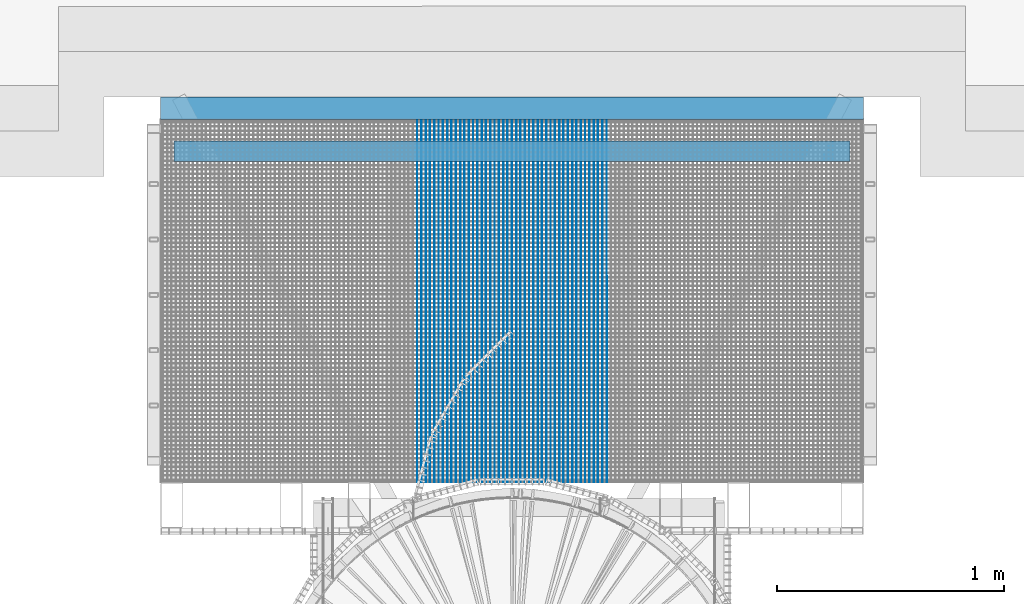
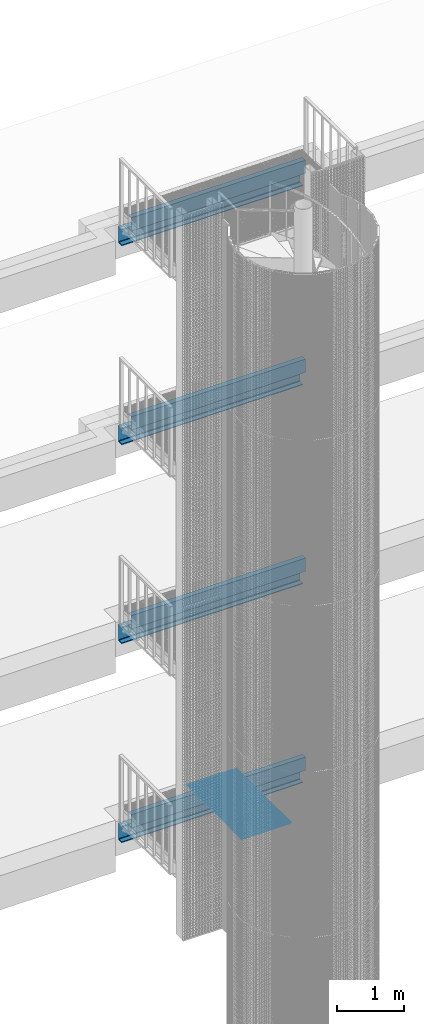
# One storey, part 84 of 1183: 53 beams, 9 elements without a shape of their own.
"""IFC2X3 building model written with IfcOpenShell, lengths in millimetres."""

from ifc_helpers import new_model, si_unit, frame, origin_with_axes, origin_2d_with_axis, place, context, subcontext, project, spatial, rectangle, u_section, extrude, material, type_object, element, aggregate, save


model = new_model("IFC2X3")

# Units and contexts
model_context = context("Model", 3, precision=1e-05, world=origin_with_axes())
body_context = subcontext(model_context, "Body", "Model", "MODEL_VIEW")
ifc_project = project(units=[si_unit("LENGTHUNIT", "METRE", prefix="MILLI"), si_unit("AREAUNIT", "SQUARE_METRE"), si_unit("VOLUMEUNIT", "CUBIC_METRE"), si_unit("MASSUNIT", "GRAM", prefix="KILO"), si_unit("TIMEUNIT", "SECOND"), si_unit("PLANEANGLEUNIT", "RADIAN"), si_unit("SOLIDANGLEUNIT", "STERADIAN"), si_unit("THERMODYNAMICTEMPERATUREUNIT", "DEGREE_CELSIUS"), si_unit("LUMINOUSINTENSITYUNIT", "LUMEN")], contexts=[model_context])

# Site, building, storey
site_placement = place(None, origin_with_axes())
site = spatial("IfcSite", under=ifc_project, at=site_placement, Name="Undefined", CompositionType="ELEMENT")
building_placement = place(site_placement, origin_with_axes())
building = spatial("IfcBuilding", under=site, at=building_placement, Name="Undefined", CompositionType="ELEMENT")
storey_placement = place(building_placement, origin_with_axes())
storey = spatial("IfcBuildingStorey", under=building, at=storey_placement, Name="Undefined", CompositionType="ELEMENT", Elevation=0.0)

# Assembly, beams
assembly_1_placement = place(storey_placement, origin_with_axes())
assembly_1 = element("IfcElementAssembly", 1, at=assembly_1_placement, inside=storey, Name="BORDURE", AssemblyPlace="NOTDEFINED", PredefinedType="NOTDEFINED")
ifc_material_1 = material(Name="STEEL/S235JR")
beam_type_1 = type_object("IfcBeamType", Name="PL2*10", PredefinedType="NOTDEFINED")
beam_1_placement = place(assembly_1_placement, frame((-417.924575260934, 1102.000261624, 6485.0), z_axis=(0.0, 0.0, 1.0), x_axis=(-4.50599999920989e-06, 0.999999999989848, 0.0)))
beam_1 = element("IfcBeam", 2, at=beam_1_placement, type_object=beam_type_1, material=ifc_material_1, Name="ENTRETOISE", context=body_context, shape_type="SweptSolid", body=[
    extrude(rectangle(XDim=2.0, YDim=10.0, at=origin_2d_with_axis()), frame((1596.0000000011, -1.35186458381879e-18, -7.27595761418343e-12), z_axis=(-1.0, 0.0, 0.0), x_axis=(0.0, -1.0, 0.0)), (0.0, 0.0, 1.0), 1596.0),
])
beam_2_placement = place(assembly_1_placement, frame((-398.924575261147, 1102.00035514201, 6485.0), z_axis=(0.0, 0.0, 1.0), x_axis=(-4.50599999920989e-06, 0.999999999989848, 0.0)))
beam_2 = element("IfcBeam", 3, at=beam_2_placement, type_object=beam_type_1, material=ifc_material_1, Name="ENTRETOISE", context=body_context, shape_type="SweptSolid", body=[
    extrude(rectangle(XDim=2.0, YDim=10.0, at=origin_2d_with_axis()), frame((1596.0000000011, -1.35186458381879e-18, -7.27595761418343e-12), z_axis=(-1.0, 0.0, 0.0), x_axis=(0.0, -1.0, 0.0)), (0.0, 0.0, 1.0), 1596.0),
])
beam_3_placement = place(assembly_1_placement, frame((-379.924575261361, 1102.00044866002, 6485.0), z_axis=(0.0, 0.0, 1.0), x_axis=(-4.50599999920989e-06, 0.999999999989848, 0.0)))
beam_3 = element("IfcBeam", 4, at=beam_3_placement, type_object=beam_type_1, material=ifc_material_1, Name="ENTRETOISE", context=body_context, shape_type="SweptSolid", body=[
    extrude(rectangle(XDim=2.0, YDim=10.0, at=origin_2d_with_axis()), frame((1596.0000000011, -1.35186458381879e-18, -7.27595761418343e-12), z_axis=(-1.0, 0.0, 0.0), x_axis=(0.0, -1.0, 0.0)), (0.0, 0.0, 1.0), 1596.0),
])
beam_4_placement = place(assembly_1_placement, frame((-360.924575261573, 1102.00054217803, 6485.0), z_axis=(0.0, 0.0, 1.0), x_axis=(-4.50599999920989e-06, 0.999999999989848, 0.0)))
beam_4 = element("IfcBeam", 5, at=beam_4_placement, type_object=beam_type_1, material=ifc_material_1, Name="ENTRETOISE", context=body_context, shape_type="SweptSolid", body=[
    extrude(rectangle(XDim=2.0, YDim=10.0, at=origin_2d_with_axis()), frame((1596.0000000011, -1.35186458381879e-18, -7.27595761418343e-12), z_axis=(-1.0, 0.0, 0.0), x_axis=(0.0, -1.0, 0.0)), (0.0, 0.0, 1.0), 1596.0),
])
beam_5_placement = place(assembly_1_placement, frame((-341.924575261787, 1102.00063569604, 6485.0), z_axis=(0.0, 0.0, 1.0), x_axis=(-4.50599999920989e-06, 0.999999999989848, 0.0)))
beam_5 = element("IfcBeam", 6, at=beam_5_placement, type_object=beam_type_1, material=ifc_material_1, Name="ENTRETOISE", context=body_context, shape_type="SweptSolid", body=[
    extrude(rectangle(XDim=2.0, YDim=10.0, at=origin_2d_with_axis()), frame((1596.0000000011, -1.35186458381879e-18, -7.27595761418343e-12), z_axis=(-1.0, 0.0, 0.0), x_axis=(0.0, -1.0, 0.0)), (0.0, 0.0, 1.0), 1596.0),
])
beam_6_placement = place(assembly_1_placement, frame((-322.924575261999, 1102.00072921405, 6485.0), z_axis=(0.0, 0.0, 1.0), x_axis=(-4.50599999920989e-06, 0.999999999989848, 0.0)))
beam_6 = element("IfcBeam", 7, at=beam_6_placement, type_object=beam_type_1, material=ifc_material_1, Name="ENTRETOISE", context=body_context, shape_type="SweptSolid", body=[
    extrude(rectangle(XDim=2.0, YDim=10.0, at=origin_2d_with_axis()), frame((1596.0000000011, -1.35186458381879e-18, -7.27595761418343e-12), z_axis=(-1.0, 0.0, 0.0), x_axis=(0.0, -1.0, 0.0)), (0.0, 0.0, 1.0), 1596.0),
])
beam_7_placement = place(assembly_1_placement, frame((-303.924575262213, 1102.00082273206, 6485.0), z_axis=(0.0, 0.0, 1.0), x_axis=(-4.50599999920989e-06, 0.999999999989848, 0.0)))
beam_7 = element("IfcBeam", 8, at=beam_7_placement, type_object=beam_type_1, material=ifc_material_1, Name="ENTRETOISE", context=body_context, shape_type="SweptSolid", body=[
    extrude(rectangle(XDim=2.0, YDim=10.0, at=origin_2d_with_axis()), frame((1596.0000000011, -1.35186458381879e-18, -7.27595761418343e-12), z_axis=(-1.0, 0.0, 0.0), x_axis=(0.0, -1.0, 0.0)), (0.0, 0.0, 1.0), 1596.0),
])
beam_8_placement = place(assembly_1_placement, frame((-284.924575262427, 1102.00091625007, 6485.0), z_axis=(0.0, 0.0, 1.0), x_axis=(-4.50599999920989e-06, 0.999999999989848, 0.0)))
beam_8 = element("IfcBeam", 9, at=beam_8_placement, type_object=beam_type_1, material=ifc_material_1, Name="ENTRETOISE", context=body_context, shape_type="SweptSolid", body=[
    extrude(rectangle(XDim=2.0, YDim=10.0, at=origin_2d_with_axis()), frame((1596.0000000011, -1.35186458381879e-18, -7.27595761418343e-12), z_axis=(-1.0, 0.0, 0.0), x_axis=(0.0, -1.0, 0.0)), (0.0, 0.0, 1.0), 1596.0),
])
beam_9_placement = place(assembly_1_placement, frame((-265.924575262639, 1102.00100976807, 6485.0), z_axis=(0.0, 0.0, 1.0), x_axis=(-4.50599999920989e-06, 0.999999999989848, 0.0)))
beam_9 = element("IfcBeam", 10, at=beam_9_placement, type_object=beam_type_1, material=ifc_material_1, Name="ENTRETOISE", context=body_context, shape_type="SweptSolid", body=[
    extrude(rectangle(XDim=2.0, YDim=10.0, at=origin_2d_with_axis()), frame((1596.0000000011, -1.35186458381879e-18, -7.27595761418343e-12), z_axis=(-1.0, 0.0, 0.0), x_axis=(0.0, -1.0, 0.0)), (0.0, 0.0, 1.0), 1596.0),
])
beam_10_placement = place(assembly_1_placement, frame((-246.924575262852, 1102.00110328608, 6485.0), z_axis=(0.0, 0.0, 1.0), x_axis=(-4.50599999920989e-06, 0.999999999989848, 0.0)))
beam_10 = element("IfcBeam", 11, at=beam_10_placement, type_object=beam_type_1, material=ifc_material_1, Name="ENTRETOISE", context=body_context, shape_type="SweptSolid", body=[
    extrude(rectangle(XDim=2.0, YDim=10.0, at=origin_2d_with_axis()), frame((1596.0000000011, -1.35186458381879e-18, -7.27595761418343e-12), z_axis=(-1.0, 0.0, 0.0), x_axis=(0.0, -1.0, 0.0)), (0.0, 0.0, 1.0), 1596.0),
])
beam_11_placement = place(assembly_1_placement, frame((-227.924575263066, 1102.00119680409, 6485.0), z_axis=(0.0, 0.0, 1.0), x_axis=(-4.50599999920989e-06, 0.999999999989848, 0.0)))
beam_11 = element("IfcBeam", 12, at=beam_11_placement, type_object=beam_type_1, material=ifc_material_1, Name="ENTRETOISE", context=body_context, shape_type="SweptSolid", body=[
    extrude(rectangle(XDim=2.0, YDim=10.0, at=origin_2d_with_axis()), frame((1596.0000000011, -1.35186458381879e-18, -7.27595761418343e-12), z_axis=(-1.0, 0.0, 0.0), x_axis=(0.0, -1.0, 0.0)), (0.0, 0.0, 1.0), 1596.0),
])
beam_12_placement = place(assembly_1_placement, frame((-208.92457526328, 1102.0012903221, 6485.0), z_axis=(0.0, 0.0, 1.0), x_axis=(-4.50599999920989e-06, 0.999999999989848, 0.0)))
beam_12 = element("IfcBeam", 13, at=beam_12_placement, type_object=beam_type_1, material=ifc_material_1, Name="ENTRETOISE", context=body_context, shape_type="SweptSolid", body=[
    extrude(rectangle(XDim=2.0, YDim=10.0, at=origin_2d_with_axis()), frame((1596.0000000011, -1.35186458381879e-18, -7.27595761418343e-12), z_axis=(-1.0, 0.0, 0.0), x_axis=(0.0, -1.0, 0.0)), (0.0, 0.0, 1.0), 1596.0),
])
beam_13_placement = place(assembly_1_placement, frame((-189.924575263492, 1102.00138384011, 6485.0), z_axis=(0.0, 0.0, 1.0), x_axis=(-4.50599999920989e-06, 0.999999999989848, 0.0)))
beam_13 = element("IfcBeam", 14, at=beam_13_placement, type_object=beam_type_1, material=ifc_material_1, Name="ENTRETOISE", context=body_context, shape_type="SweptSolid", body=[
    extrude(rectangle(XDim=2.0, YDim=10.0, at=origin_2d_with_axis()), frame((1596.0000000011, -1.35186458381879e-18, -7.27595761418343e-12), z_axis=(-1.0, 0.0, 0.0), x_axis=(0.0, -1.0, 0.0)), (0.0, 0.0, 1.0), 1596.0),
])
beam_14_placement = place(assembly_1_placement, frame((-170.924575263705, 1102.00147735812, 6485.0), z_axis=(0.0, 0.0, 1.0), x_axis=(-4.50599999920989e-06, 0.999999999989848, 0.0)))
beam_14 = element("IfcBeam", 15, at=beam_14_placement, type_object=beam_type_1, material=ifc_material_1, Name="ENTRETOISE", context=body_context, shape_type="SweptSolid", body=[
    extrude(rectangle(XDim=2.0, YDim=10.0, at=origin_2d_with_axis()), frame((1596.0000000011, -1.35186458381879e-18, -7.27595761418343e-12), z_axis=(-1.0, 0.0, 0.0), x_axis=(0.0, -1.0, 0.0)), (0.0, 0.0, 1.0), 1596.0),
])
beam_15_placement = place(assembly_1_placement, frame((-151.924575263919, 1102.00157087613, 6485.0), z_axis=(0.0, 0.0, 1.0), x_axis=(-4.50599999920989e-06, 0.999999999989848, 0.0)))
beam_15 = element("IfcBeam", 16, at=beam_15_placement, type_object=beam_type_1, material=ifc_material_1, Name="ENTRETOISE", context=body_context, shape_type="SweptSolid", body=[
    extrude(rectangle(XDim=2.0, YDim=10.0, at=origin_2d_with_axis()), frame((1596.0000000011, -1.35186458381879e-18, -7.27595761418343e-12), z_axis=(-1.0, 0.0, 0.0), x_axis=(0.0, -1.0, 0.0)), (0.0, 0.0, 1.0), 1596.0),
])
beam_16_placement = place(assembly_1_placement, frame((-132.924575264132, 1102.00166439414, 6485.0), z_axis=(0.0, 0.0, 1.0), x_axis=(-4.50599999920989e-06, 0.999999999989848, 0.0)))
beam_16 = element("IfcBeam", 17, at=beam_16_placement, type_object=beam_type_1, material=ifc_material_1, Name="ENTRETOISE", context=body_context, shape_type="SweptSolid", body=[
    extrude(rectangle(XDim=2.0, YDim=10.0, at=origin_2d_with_axis()), frame((1596.0000000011, -1.35186458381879e-18, -7.27595761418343e-12), z_axis=(-1.0, 0.0, 0.0), x_axis=(0.0, -1.0, 0.0)), (0.0, 0.0, 1.0), 1596.0),
])
beam_17_placement = place(assembly_1_placement, frame((-113.924575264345, 1102.00175791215, 6485.0), z_axis=(0.0, 0.0, 1.0), x_axis=(-4.50599999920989e-06, 0.999999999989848, 0.0)))
beam_17 = element("IfcBeam", 18, at=beam_17_placement, type_object=beam_type_1, material=ifc_material_1, Name="ENTRETOISE", context=body_context, shape_type="SweptSolid", body=[
    extrude(rectangle(XDim=2.0, YDim=10.0, at=origin_2d_with_axis()), frame((1596.0000000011, -1.35186458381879e-18, -7.27595761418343e-12), z_axis=(-1.0, 0.0, 0.0), x_axis=(0.0, -1.0, 0.0)), (0.0, 0.0, 1.0), 1596.0),
])
beam_18_placement = place(assembly_1_placement, frame((-94.9245752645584, 1102.00185143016, 6485.0), z_axis=(0.0, 0.0, 1.0), x_axis=(-4.50599999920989e-06, 0.999999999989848, 0.0)))
beam_18 = element("IfcBeam", 19, at=beam_18_placement, type_object=beam_type_1, material=ifc_material_1, Name="ENTRETOISE", context=body_context, shape_type="SweptSolid", body=[
    extrude(rectangle(XDim=2.0, YDim=10.0, at=origin_2d_with_axis()), frame((1596.0000000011, -1.35186458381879e-18, -7.27595761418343e-12), z_axis=(-1.0, 0.0, 0.0), x_axis=(0.0, -1.0, 0.0)), (0.0, 0.0, 1.0), 1596.0),
])
beam_19_placement = place(assembly_1_placement, frame((-75.9245752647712, 1102.00194494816, 6485.0), z_axis=(0.0, 0.0, 1.0), x_axis=(-4.50599999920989e-06, 0.999999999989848, 0.0)))
beam_19 = element("IfcBeam", 20, at=beam_19_placement, type_object=beam_type_1, material=ifc_material_1, Name="ENTRETOISE", context=body_context, shape_type="SweptSolid", body=[
    extrude(rectangle(XDim=2.0, YDim=10.0, at=origin_2d_with_axis()), frame((1596.0000000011, -1.35186458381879e-18, -7.27595761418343e-12), z_axis=(-1.0, 0.0, 0.0), x_axis=(0.0, -1.0, 0.0)), (0.0, 0.0, 1.0), 1596.0),
])
beam_20_placement = place(assembly_1_placement, frame((-56.9245752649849, 1102.00203846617, 6485.0), z_axis=(0.0, 0.0, 1.0), x_axis=(-4.50599999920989e-06, 0.999999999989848, 0.0)))
beam_20 = element("IfcBeam", 21, at=beam_20_placement, type_object=beam_type_1, material=ifc_material_1, Name="ENTRETOISE", context=body_context, shape_type="SweptSolid", body=[
    extrude(rectangle(XDim=2.0, YDim=10.0, at=origin_2d_with_axis()), frame((1596.0000000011, -1.35186458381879e-18, -7.27595761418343e-12), z_axis=(-1.0, 0.0, 0.0), x_axis=(0.0, -1.0, 0.0)), (0.0, 0.0, 1.0), 1596.0),
])
beam_21_placement = place(assembly_1_placement, frame((-37.9245752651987, 1102.00213198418, 6485.0), z_axis=(0.0, 0.0, 1.0), x_axis=(-4.50599999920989e-06, 0.999999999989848, 0.0)))
beam_21 = element("IfcBeam", 22, at=beam_21_placement, type_object=beam_type_1, material=ifc_material_1, Name="ENTRETOISE", context=body_context, shape_type="SweptSolid", body=[
    extrude(rectangle(XDim=2.0, YDim=10.0, at=origin_2d_with_axis()), frame((1596.0000000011, -1.35186458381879e-18, -7.27595761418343e-12), z_axis=(-1.0, 0.0, 0.0), x_axis=(0.0, -1.0, 0.0)), (0.0, 0.0, 1.0), 1596.0),
])
beam_22_placement = place(assembly_1_placement, frame((-18.9245752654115, 1102.00222550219, 6485.0), z_axis=(0.0, 0.0, 1.0), x_axis=(-4.50599999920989e-06, 0.999999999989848, 0.0)))
beam_22 = element("IfcBeam", 23, at=beam_22_placement, type_object=beam_type_1, material=ifc_material_1, Name="ENTRETOISE", context=body_context, shape_type="SweptSolid", body=[
    extrude(rectangle(XDim=2.0, YDim=10.0, at=origin_2d_with_axis()), frame((1596.0000000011, -1.35186458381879e-18, -7.27595761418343e-12), z_axis=(-1.0, 0.0, 0.0), x_axis=(0.0, -1.0, 0.0)), (0.0, 0.0, 1.0), 1596.0),
])
beam_23_placement = place(assembly_1_placement, frame((0.075424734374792, 1102.0023190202, 6485.0), z_axis=(0.0, 0.0, 1.0), x_axis=(-4.50599999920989e-06, 0.999999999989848, 0.0)))
beam_23 = element("IfcBeam", 24, at=beam_23_placement, type_object=beam_type_1, material=ifc_material_1, Name="ENTRETOISE", context=body_context, shape_type="SweptSolid", body=[
    extrude(rectangle(XDim=2.0, YDim=10.0, at=origin_2d_with_axis()), frame((1596.0000000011, -1.35186458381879e-18, -7.27595761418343e-12), z_axis=(-1.0, 0.0, 0.0), x_axis=(0.0, -1.0, 0.0)), (0.0, 0.0, 1.0), 1596.0),
])
beam_24_placement = place(assembly_1_placement, frame((19.075424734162, 1102.00241253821, 6485.0), z_axis=(0.0, 0.0, 1.0), x_axis=(-4.50599999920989e-06, 0.999999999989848, 0.0)))
beam_24 = element("IfcBeam", 25, at=beam_24_placement, type_object=beam_type_1, material=ifc_material_1, Name="ENTRETOISE", context=body_context, shape_type="SweptSolid", body=[
    extrude(rectangle(XDim=2.0, YDim=10.0, at=origin_2d_with_axis()), frame((1596.0000000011, -1.35186458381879e-18, -7.27595761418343e-12), z_axis=(-1.0, 0.0, 0.0), x_axis=(0.0, -1.0, 0.0)), (0.0, 0.0, 1.0), 1596.0),
])
beam_25_placement = place(assembly_1_placement, frame((38.0754247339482, 1102.00250605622, 6485.0), z_axis=(0.0, 0.0, 1.0), x_axis=(-4.50599999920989e-06, 0.999999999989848, 0.0)))
beam_25 = element("IfcBeam", 26, at=beam_25_placement, type_object=beam_type_1, material=ifc_material_1, Name="ENTRETOISE", context=body_context, shape_type="SweptSolid", body=[
    extrude(rectangle(XDim=2.0, YDim=10.0, at=origin_2d_with_axis()), frame((1596.0000000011, -1.35186458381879e-18, -7.27595761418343e-12), z_axis=(-1.0, 0.0, 0.0), x_axis=(0.0, -1.0, 0.0)), (0.0, 0.0, 1.0), 1596.0),
])
beam_26_placement = place(assembly_1_placement, frame((57.0754247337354, 1102.00259957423, 6485.0), z_axis=(0.0, 0.0, 1.0), x_axis=(-4.50599999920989e-06, 0.999999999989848, 0.0)))
beam_26 = element("IfcBeam", 27, at=beam_26_placement, type_object=beam_type_1, material=ifc_material_1, Name="ENTRETOISE", context=body_context, shape_type="SweptSolid", body=[
    extrude(rectangle(XDim=2.0, YDim=10.0, at=origin_2d_with_axis()), frame((1596.0000000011, -1.35186458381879e-18, -7.27595761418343e-12), z_axis=(-1.0, 0.0, 0.0), x_axis=(0.0, -1.0, 0.0)), (0.0, 0.0, 1.0), 1596.0),
])
beam_27_placement = place(assembly_1_placement, frame((76.0754247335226, 1102.00269309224, 6485.0), z_axis=(0.0, 0.0, 1.0), x_axis=(-4.50599999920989e-06, 0.999999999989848, 0.0)))
beam_27 = element("IfcBeam", 28, at=beam_27_placement, type_object=beam_type_1, material=ifc_material_1, Name="ENTRETOISE", context=body_context, shape_type="SweptSolid", body=[
    extrude(rectangle(XDim=2.0, YDim=10.0, at=origin_2d_with_axis()), frame((1596.0000000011, -1.35186458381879e-18, -7.27595761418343e-12), z_axis=(-1.0, 0.0, 0.0), x_axis=(0.0, -1.0, 0.0)), (0.0, 0.0, 1.0), 1596.0),
])
beam_28_placement = place(assembly_1_placement, frame((95.0754247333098, 1102.00278661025, 6485.0), z_axis=(0.0, 0.0, 1.0), x_axis=(-4.50599999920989e-06, 0.999999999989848, 0.0)))
beam_28 = element("IfcBeam", 29, at=beam_28_placement, type_object=beam_type_1, material=ifc_material_1, Name="ENTRETOISE", context=body_context, shape_type="SweptSolid", body=[
    extrude(rectangle(XDim=2.0, YDim=10.0, at=origin_2d_with_axis()), frame((1596.0000000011, -1.35186458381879e-18, -7.27595761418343e-12), z_axis=(-1.0, 0.0, 0.0), x_axis=(0.0, -1.0, 0.0)), (0.0, 0.0, 1.0), 1596.0),
])
beam_29_placement = place(assembly_1_placement, frame((114.075424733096, 1102.00288012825, 6485.0), z_axis=(0.0, 0.0, 1.0), x_axis=(-4.50599999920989e-06, 0.999999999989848, 0.0)))
beam_29 = element("IfcBeam", 30, at=beam_29_placement, type_object=beam_type_1, material=ifc_material_1, Name="ENTRETOISE", context=body_context, shape_type="SweptSolid", body=[
    extrude(rectangle(XDim=2.0, YDim=10.0, at=origin_2d_with_axis()), frame((1596.0000000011, -1.35186458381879e-18, -7.27595761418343e-12), z_axis=(-1.0, 0.0, 0.0), x_axis=(0.0, -1.0, 0.0)), (0.0, 0.0, 1.0), 1596.0),
])
beam_30_placement = place(assembly_1_placement, frame((133.075424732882, 1102.00297364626, 6485.0), z_axis=(0.0, 0.0, 1.0), x_axis=(-4.50599999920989e-06, 0.999999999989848, 0.0)))
beam_30 = element("IfcBeam", 31, at=beam_30_placement, type_object=beam_type_1, material=ifc_material_1, Name="ENTRETOISE", context=body_context, shape_type="SweptSolid", body=[
    extrude(rectangle(XDim=2.0, YDim=10.0, at=origin_2d_with_axis()), frame((1596.0000000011, -1.35186458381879e-18, -7.27595761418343e-12), z_axis=(-1.0, 0.0, 0.0), x_axis=(0.0, -1.0, 0.0)), (0.0, 0.0, 1.0), 1596.0),
])
beam_31_placement = place(assembly_1_placement, frame((152.075424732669, 1102.00306716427, 6485.0), z_axis=(0.0, 0.0, 1.0), x_axis=(-4.50599999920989e-06, 0.999999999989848, 0.0)))
beam_31 = element("IfcBeam", 32, at=beam_31_placement, type_object=beam_type_1, material=ifc_material_1, Name="ENTRETOISE", context=body_context, shape_type="SweptSolid", body=[
    extrude(rectangle(XDim=2.0, YDim=10.0, at=origin_2d_with_axis()), frame((1596.0000000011, -1.35186458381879e-18, -7.27595761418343e-12), z_axis=(-1.0, 0.0, 0.0), x_axis=(0.0, -1.0, 0.0)), (0.0, 0.0, 1.0), 1596.0),
])
beam_32_placement = place(assembly_1_placement, frame((171.075424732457, 1102.00316068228, 6485.0), z_axis=(0.0, 0.0, 1.0), x_axis=(-4.50599999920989e-06, 0.999999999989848, 0.0)))
beam_32 = element("IfcBeam", 33, at=beam_32_placement, type_object=beam_type_1, material=ifc_material_1, Name="ENTRETOISE", context=body_context, shape_type="SweptSolid", body=[
    extrude(rectangle(XDim=2.0, YDim=10.0, at=origin_2d_with_axis()), frame((1596.0000000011, -1.35186458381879e-18, -7.27595761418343e-12), z_axis=(-1.0, 0.0, 0.0), x_axis=(0.0, -1.0, 0.0)), (0.0, 0.0, 1.0), 1596.0),
])
beam_33_placement = place(assembly_1_placement, frame((190.075424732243, 1102.00325420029, 6485.0), z_axis=(0.0, 0.0, 1.0), x_axis=(-4.50599999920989e-06, 0.999999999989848, 0.0)))
beam_33 = element("IfcBeam", 34, at=beam_33_placement, type_object=beam_type_1, material=ifc_material_1, Name="ENTRETOISE", context=body_context, shape_type="SweptSolid", body=[
    extrude(rectangle(XDim=2.0, YDim=10.0, at=origin_2d_with_axis()), frame((1596.0000000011, -1.35186458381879e-18, -7.27595761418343e-12), z_axis=(-1.0, 0.0, 0.0), x_axis=(0.0, -1.0, 0.0)), (0.0, 0.0, 1.0), 1596.0),
])
beam_34_placement = place(assembly_1_placement, frame((209.075424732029, 1102.0033477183, 6485.0), z_axis=(0.0, 0.0, 1.0), x_axis=(-4.50599999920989e-06, 0.999999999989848, 0.0)))
beam_34 = element("IfcBeam", 35, at=beam_34_placement, type_object=beam_type_1, material=ifc_material_1, Name="ENTRETOISE", context=body_context, shape_type="SweptSolid", body=[
    extrude(rectangle(XDim=2.0, YDim=10.0, at=origin_2d_with_axis()), frame((1596.0000000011, -1.35186458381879e-18, -7.27595761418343e-12), z_axis=(-1.0, 0.0, 0.0), x_axis=(0.0, -1.0, 0.0)), (0.0, 0.0, 1.0), 1596.0),
])
beam_35_placement = place(assembly_1_placement, frame((228.075424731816, 1102.00344123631, 6485.0), z_axis=(0.0, 0.0, 1.0), x_axis=(-4.50599999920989e-06, 0.999999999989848, 0.0)))
beam_35 = element("IfcBeam", 36, at=beam_35_placement, type_object=beam_type_1, material=ifc_material_1, Name="ENTRETOISE", context=body_context, shape_type="SweptSolid", body=[
    extrude(rectangle(XDim=2.0, YDim=10.0, at=origin_2d_with_axis()), frame((1596.0000000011, -1.35186458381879e-18, -7.27595761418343e-12), z_axis=(-1.0, 0.0, 0.0), x_axis=(0.0, -1.0, 0.0)), (0.0, 0.0, 1.0), 1596.0),
])
beam_36_placement = place(assembly_1_placement, frame((247.075424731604, 1102.00353475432, 6485.0), z_axis=(0.0, 0.0, 1.0), x_axis=(-4.50599999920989e-06, 0.999999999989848, 0.0)))
beam_36 = element("IfcBeam", 37, at=beam_36_placement, type_object=beam_type_1, material=ifc_material_1, Name="ENTRETOISE", context=body_context, shape_type="SweptSolid", body=[
    extrude(rectangle(XDim=2.0, YDim=10.0, at=origin_2d_with_axis()), frame((1596.0000000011, -1.35186458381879e-18, -7.27595761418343e-12), z_axis=(-1.0, 0.0, 0.0), x_axis=(0.0, -1.0, 0.0)), (0.0, 0.0, 1.0), 1596.0),
])
beam_37_placement = place(assembly_1_placement, frame((266.075424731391, 1102.00362827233, 6485.0), z_axis=(0.0, 0.0, 1.0), x_axis=(-4.50599999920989e-06, 0.999999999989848, 0.0)))
beam_37 = element("IfcBeam", 38, at=beam_37_placement, type_object=beam_type_1, material=ifc_material_1, Name="ENTRETOISE", context=body_context, shape_type="SweptSolid", body=[
    extrude(rectangle(XDim=2.0, YDim=10.0, at=origin_2d_with_axis()), frame((1596.0000000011, -1.35186458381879e-18, -7.27595761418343e-12), z_axis=(-1.0, 0.0, 0.0), x_axis=(0.0, -1.0, 0.0)), (0.0, 0.0, 1.0), 1596.0),
])
beam_38_placement = place(assembly_1_placement, frame((285.075424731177, 1102.00372179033, 6485.0), z_axis=(0.0, 0.0, 1.0), x_axis=(-4.50599999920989e-06, 0.999999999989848, 0.0)))
beam_38 = element("IfcBeam", 39, at=beam_38_placement, type_object=beam_type_1, material=ifc_material_1, Name="ENTRETOISE", context=body_context, shape_type="SweptSolid", body=[
    extrude(rectangle(XDim=2.0, YDim=10.0, at=origin_2d_with_axis()), frame((1596.0000000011, -1.35186458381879e-18, -7.27595761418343e-12), z_axis=(-1.0, 0.0, 0.0), x_axis=(0.0, -1.0, 0.0)), (0.0, 0.0, 1.0), 1596.0),
])
beam_39_placement = place(assembly_1_placement, frame((304.075424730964, 1102.00381530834, 6485.0), z_axis=(0.0, 0.0, 1.0), x_axis=(-4.50599999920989e-06, 0.999999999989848, 0.0)))
beam_39 = element("IfcBeam", 40, at=beam_39_placement, type_object=beam_type_1, material=ifc_material_1, Name="ENTRETOISE", context=body_context, shape_type="SweptSolid", body=[
    extrude(rectangle(XDim=2.0, YDim=10.0, at=origin_2d_with_axis()), frame((1596.0000000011, -1.35186458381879e-18, -7.27595761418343e-12), z_axis=(-1.0, 0.0, 0.0), x_axis=(0.0, -1.0, 0.0)), (0.0, 0.0, 1.0), 1596.0),
])
beam_40_placement = place(assembly_1_placement, frame((323.07542473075, 1102.00390882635, 6485.0), z_axis=(0.0, 0.0, 1.0), x_axis=(-4.50599999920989e-06, 0.999999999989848, 0.0)))
beam_40 = element("IfcBeam", 41, at=beam_40_placement, type_object=beam_type_1, material=ifc_material_1, Name="ENTRETOISE", context=body_context, shape_type="SweptSolid", body=[
    extrude(rectangle(XDim=2.0, YDim=10.0, at=origin_2d_with_axis()), frame((1596.0000000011, -1.35186458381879e-18, -7.27595761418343e-12), z_axis=(-1.0, 0.0, 0.0), x_axis=(0.0, -1.0, 0.0)), (0.0, 0.0, 1.0), 1596.0),
])
beam_41_placement = place(assembly_1_placement, frame((342.075424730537, 1102.00400234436, 6485.0), z_axis=(0.0, 0.0, 1.0), x_axis=(-4.50599999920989e-06, 0.999999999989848, 0.0)))
beam_41 = element("IfcBeam", 42, at=beam_41_placement, type_object=beam_type_1, material=ifc_material_1, Name="ENTRETOISE", context=body_context, shape_type="SweptSolid", body=[
    extrude(rectangle(XDim=2.0, YDim=10.0, at=origin_2d_with_axis()), frame((1596.0000000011, -1.35186458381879e-18, -7.27595761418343e-12), z_axis=(-1.0, 0.0, 0.0), x_axis=(0.0, -1.0, 0.0)), (0.0, 0.0, 1.0), 1596.0),
])
beam_42_placement = place(assembly_1_placement, frame((361.075424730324, 1102.00409586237, 6485.0), z_axis=(0.0, 0.0, 1.0), x_axis=(-4.50599999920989e-06, 0.999999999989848, 0.0)))
beam_42 = element("IfcBeam", 43, at=beam_42_placement, type_object=beam_type_1, material=ifc_material_1, Name="ENTRETOISE", context=body_context, shape_type="SweptSolid", body=[
    extrude(rectangle(XDim=2.0, YDim=10.0, at=origin_2d_with_axis()), frame((1596.0000000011, -1.35186458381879e-18, -7.27595761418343e-12), z_axis=(-1.0, 0.0, 0.0), x_axis=(0.0, -1.0, 0.0)), (0.0, 0.0, 1.0), 1596.0),
])
beam_43_placement = place(assembly_1_placement, frame((380.07542473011, 1102.00418938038, 6485.0), z_axis=(0.0, 0.0, 1.0), x_axis=(-4.50599999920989e-06, 0.999999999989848, 0.0)))
beam_43 = element("IfcBeam", 44, at=beam_43_placement, type_object=beam_type_1, material=ifc_material_1, Name="ENTRETOISE", context=body_context, shape_type="SweptSolid", body=[
    extrude(rectangle(XDim=2.0, YDim=10.0, at=origin_2d_with_axis()), frame((1596.0000000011, -1.35186458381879e-18, -7.27595761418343e-12), z_axis=(-1.0, 0.0, 0.0), x_axis=(0.0, -1.0, 0.0)), (0.0, 0.0, 1.0), 1596.0),
])
beam_44_placement = place(assembly_1_placement, frame((399.075424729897, 1102.00428289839, 6485.0), z_axis=(0.0, 0.0, 1.0), x_axis=(-4.50599999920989e-06, 0.999999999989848, 0.0)))
beam_44 = element("IfcBeam", 45, at=beam_44_placement, type_object=beam_type_1, material=ifc_material_1, Name="ENTRETOISE", context=body_context, shape_type="SweptSolid", body=[
    extrude(rectangle(XDim=2.0, YDim=10.0, at=origin_2d_with_axis()), frame((1596.0000000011, -1.35186458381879e-18, -7.27595761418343e-12), z_axis=(-1.0, 0.0, 0.0), x_axis=(0.0, -1.0, 0.0)), (0.0, 0.0, 1.0), 1596.0),
])
beam_45_placement = place(assembly_1_placement, frame((418.075424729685, 1102.0043764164, 6485.0), z_axis=(0.0, 0.0, 1.0), x_axis=(-4.50599999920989e-06, 0.999999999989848, 0.0)))
beam_45 = element("IfcBeam", 46, at=beam_45_placement, type_object=beam_type_1, material=ifc_material_1, Name="ENTRETOISE", context=body_context, shape_type="SweptSolid", body=[
    extrude(rectangle(XDim=2.0, YDim=10.0, at=origin_2d_with_axis()), frame((1596.0000000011, -1.35186458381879e-18, -7.27595761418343e-12), z_axis=(-1.0, 0.0, 0.0), x_axis=(0.0, -1.0, 0.0)), (0.0, 0.0, 1.0), 1596.0),
])
aggregate(assembly_1, [beam_1, beam_2, beam_3, beam_4, beam_5, beam_6, beam_7, beam_8, beam_9, beam_10, beam_11, beam_12, beam_13, beam_14, beam_15, beam_16, beam_17, beam_18, beam_19, beam_20, beam_21, beam_22, beam_23, beam_24, beam_25, beam_26, beam_27, beam_28, beam_29, beam_30, beam_31, beam_32, beam_33, beam_34, beam_35, beam_36, beam_37, beam_38, beam_39, beam_40, beam_41, beam_42, beam_43, beam_44, beam_45])

# Assembly, beam
assembly_2_placement = place(storey_placement, origin_with_axes())
assembly_2 = element("IfcElementAssembly", 47, at=assembly_2_placement, inside=storey, Name="TRAVERSE", AssemblyPlace="NOTDEFINED", PredefinedType="NOTDEFINED")
ifc_material_2 = material(Name="STEEL/S275JR")
beam_type_2 = type_object("IfcBeamType", Name="UPE300", PredefinedType="NOTDEFINED")
beam_46_placement = place(assembly_2_placement, frame((-1549.92723825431, 2749.84818067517, 16790.0), z_axis=(0.0, 0.0, 1.0), x_axis=(1.0, 0.0, 0.0)))
beam_46 = element("IfcBeam", 48, at=beam_46_placement, type_object=beam_type_2, material=ifc_material_2, Name="TRAVERSE", context=body_context, shape_type="SweptSolid", body=[
    extrude(u_section(Depth=300.0, FlangeWidth=100.0, WebThickness=9.5, FlangeThickness=15.0, FilletRadius=15.0, at=origin_2d_with_axis()), frame((3099.99084151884, -4.54747022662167e-13, 3.63797880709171e-12), z_axis=(-1.0, 0.0, 0.0), x_axis=(0.0, -1.0, 0.0)), (0.0, 0.0, 1.0), 3099.99),
])
aggregate(assembly_2, [beam_46])

assembly_3_placement = place(storey_placement, origin_with_axes())
assembly_3 = element("IfcElementAssembly", 49, at=assembly_3_placement, inside=storey, Name="TRAVERSE", AssemblyPlace="NOTDEFINED", PredefinedType="NOTDEFINED")
beam_47_placement = place(assembly_3_placement, frame((-1549.92723825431, 2749.92818067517, 13190.0), z_axis=(0.0, 0.0, 1.0), x_axis=(1.0, 0.0, 0.0)))
beam_47 = element("IfcBeam", 50, at=beam_47_placement, type_object=beam_type_2, material=ifc_material_2, Name="TRAVERSE", context=body_context, shape_type="SweptSolid", body=[
    extrude(u_section(Depth=300.0, FlangeWidth=100.0, WebThickness=9.5, FlangeThickness=15.0, FilletRadius=15.0, at=origin_2d_with_axis()), frame((3099.99084151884, -4.54747022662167e-13, 3.63797880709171e-12), z_axis=(-1.0, 0.0, 0.0), x_axis=(0.0, -1.0, 0.0)), (0.0, 0.0, 1.0), 3099.99),
])
aggregate(assembly_3, [beam_47])

assembly_4_placement = place(storey_placement, origin_with_axes())
assembly_4 = element("IfcElementAssembly", 51, at=assembly_4_placement, inside=storey, Name="TRAVERSE", AssemblyPlace="NOTDEFINED", PredefinedType="NOTDEFINED")
beam_48_placement = place(assembly_4_placement, frame((-1549.92723825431, 2750.00818067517, 9590.0), z_axis=(0.0, 0.0, 1.0), x_axis=(1.0, 0.0, 0.0)))
beam_48 = element("IfcBeam", 52, at=beam_48_placement, type_object=beam_type_2, material=ifc_material_2, Name="TRAVERSE", context=body_context, shape_type="SweptSolid", body=[
    extrude(u_section(Depth=300.0, FlangeWidth=100.0, WebThickness=9.5, FlangeThickness=15.0, FilletRadius=15.0, at=origin_2d_with_axis()), frame((3099.99084151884, -4.54747022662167e-13, 3.63797880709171e-12), z_axis=(-1.0, 0.0, 0.0), x_axis=(0.0, -1.0, 0.0)), (0.0, 0.0, 1.0), 3099.99),
])
aggregate(assembly_4, [beam_48])

assembly_5_placement = place(storey_placement, origin_with_axes())
assembly_5 = element("IfcElementAssembly", 53, at=assembly_5_placement, inside=storey, Name="TRAVERSE", AssemblyPlace="NOTDEFINED", PredefinedType="NOTDEFINED")
beam_49_placement = place(assembly_5_placement, frame((-1549.92723825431, 2750.08818067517, 5990.0), z_axis=(0.0, 0.0, 1.0), x_axis=(1.0, 0.0, 0.0)))
beam_49 = element("IfcBeam", 54, at=beam_49_placement, type_object=beam_type_2, material=ifc_material_2, Name="TRAVERSE", context=body_context, shape_type="SweptSolid", body=[
    extrude(u_section(Depth=300.0, FlangeWidth=100.0, WebThickness=9.5, FlangeThickness=15.0, FilletRadius=15.0, at=origin_2d_with_axis()), frame((3099.99084151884, -4.54747022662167e-13, 3.63797880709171e-12), z_axis=(-1.0, 0.0, 0.0), x_axis=(0.0, -1.0, 0.0)), (0.0, 0.0, 1.0), 3099.99),
])
aggregate(assembly_5, [beam_49])

assembly_6_placement = place(storey_placement, origin_with_axes())
assembly_6 = element("IfcElementAssembly", 55, at=assembly_6_placement, inside=storey, AssemblyPlace="NOTDEFINED", PredefinedType="NOTDEFINED")
beam_type_3 = type_object("IfcBeamType", Name="UPE240", PredefinedType="NOTDEFINED")
beam_50_placement = place(assembly_6_placement, frame((-1489.9201797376, 2559.99468994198, 17120.0), z_axis=(0.0, 0.0, -1.0), x_axis=(0.999999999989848, 4.50600000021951e-06, 0.0)))
beam_50 = element("IfcBeam", 56, at=beam_50_placement, type_object=beam_type_3, material=ifc_material_1, Name="EXISTANTS", context=body_context, shape_type="SweptSolid", body=[
    extrude(u_section(Depth=240.0, FlangeWidth=90.0, WebThickness=7.0, FlangeThickness=12.5, FilletRadius=15.0, at=origin_2d_with_axis()), frame((2979.99084475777, 0.0, 3.63797880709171e-12), z_axis=(-1.0, 0.0, 0.0), x_axis=(0.0, -1.0, 0.0)), (0.0, 0.0, 1.0), 2979.99),
])
aggregate(assembly_6, [beam_50])

assembly_7_placement = place(storey_placement, origin_with_axes())
assembly_7 = element("IfcElementAssembly", 57, at=assembly_7_placement, inside=storey, AssemblyPlace="NOTDEFINED", PredefinedType="NOTDEFINED")
beam_51_placement = place(assembly_7_placement, frame((-1489.9201797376, 2559.99468994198, 13520.0), z_axis=(0.0, 0.0, -1.0), x_axis=(0.999999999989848, 4.50600000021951e-06, 0.0)))
beam_51 = element("IfcBeam", 58, at=beam_51_placement, type_object=beam_type_3, material=ifc_material_1, Name="EXISTANTS", context=body_context, shape_type="SweptSolid", body=[
    extrude(u_section(Depth=240.0, FlangeWidth=90.0, WebThickness=7.0, FlangeThickness=12.5, FilletRadius=15.0, at=origin_2d_with_axis()), frame((2979.99084475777, 0.0, 3.63797880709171e-12), z_axis=(-1.0, 0.0, 0.0), x_axis=(0.0, -1.0, 0.0)), (0.0, 0.0, 1.0), 2979.99),
])
aggregate(assembly_7, [beam_51])

assembly_8_placement = place(storey_placement, origin_with_axes())
assembly_8 = element("IfcElementAssembly", 59, at=assembly_8_placement, inside=storey, AssemblyPlace="NOTDEFINED", PredefinedType="NOTDEFINED")
beam_52_placement = place(assembly_8_placement, frame((-1489.9201797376, 2559.99468994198, 9920.0), z_axis=(0.0, 0.0, -1.0), x_axis=(0.999999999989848, 4.50600000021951e-06, 0.0)))
beam_52 = element("IfcBeam", 60, at=beam_52_placement, type_object=beam_type_3, material=ifc_material_1, Name="EXISTANTS", context=body_context, shape_type="SweptSolid", body=[
    extrude(u_section(Depth=240.0, FlangeWidth=90.0, WebThickness=7.0, FlangeThickness=12.5, FilletRadius=15.0, at=origin_2d_with_axis()), frame((2979.99084475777, 0.0, 3.63797880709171e-12), z_axis=(-1.0, 0.0, 0.0), x_axis=(0.0, -1.0, 0.0)), (0.0, 0.0, 1.0), 2979.99),
])
aggregate(assembly_8, [beam_52])

assembly_9_placement = place(storey_placement, origin_with_axes())
assembly_9 = element("IfcElementAssembly", 61, at=assembly_9_placement, inside=storey, AssemblyPlace="NOTDEFINED", PredefinedType="NOTDEFINED")
beam_53_placement = place(assembly_9_placement, frame((-1489.9201797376, 2559.99468994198, 6320.0), z_axis=(0.0, 0.0, -1.0), x_axis=(0.999999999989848, 4.50600000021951e-06, 0.0)))
beam_53 = element("IfcBeam", 62, at=beam_53_placement, type_object=beam_type_3, material=ifc_material_1, Name="EXISTANTS", context=body_context, shape_type="SweptSolid", body=[
    extrude(u_section(Depth=240.0, FlangeWidth=90.0, WebThickness=7.0, FlangeThickness=12.5, FilletRadius=15.0, at=origin_2d_with_axis()), frame((2979.99084475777, 0.0, 3.63797880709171e-12), z_axis=(-1.0, 0.0, 0.0), x_axis=(0.0, -1.0, 0.0)), (0.0, 0.0, 1.0), 2979.99),
])
aggregate(assembly_9, [beam_53])

save(model, "model.ifc")
